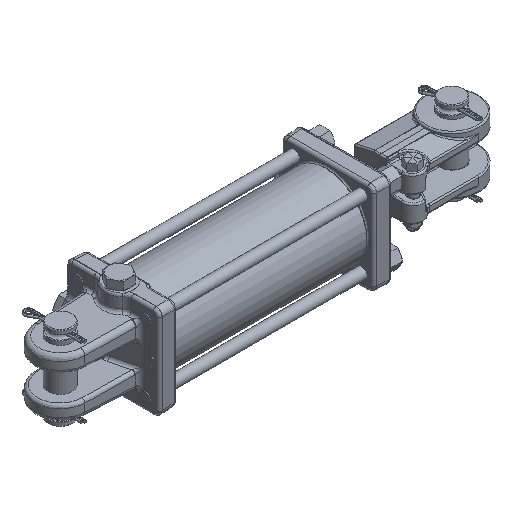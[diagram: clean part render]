
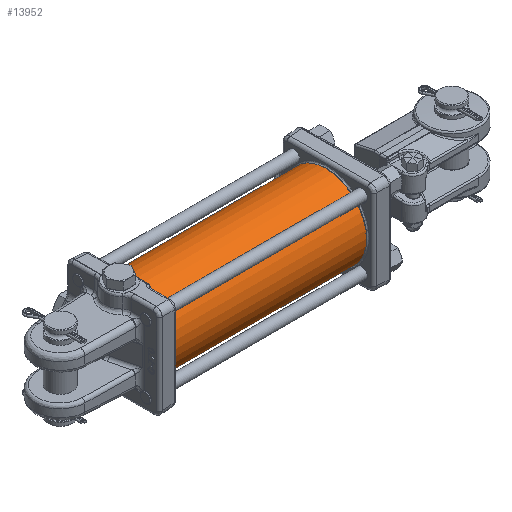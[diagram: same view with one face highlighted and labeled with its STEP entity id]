
A CAD part, isometric view. The second image highlights one B-rep face of the part: STEP entity #13952.
In plain terms, the highlighted cylindrical face has radius 42.862 mm (diameter 85.725 mm), a full revolution.
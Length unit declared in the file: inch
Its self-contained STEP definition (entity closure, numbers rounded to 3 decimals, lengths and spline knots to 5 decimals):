
#2922=CYLINDRICAL_SURFACE($,#14925,1.6875);
#3151=FACE_OUTER_BOUND($,#4328,.T.);
#4097=FACE_BOUND($,#4329,.T.);
#4328=EDGE_LOOP($,(#9443));
#4329=EDGE_LOOP($,(#9444));
#5452=CIRCLE($,#14916,1.6875);
#5456=CIRCLE($,#14924,1.6875);
#5963=VERTEX_POINT($,#19971);
#5967=VERTEX_POINT($,#19983);
#7316=EDGE_CURVE($,#5963,#5963,#5452,.T.);
#7320=EDGE_CURVE($,#5967,#5967,#5456,.T.);
#9443=ORIENTED_EDGE($,*,*,#7316,.F.);
#9444=ORIENTED_EDGE($,*,*,#7320,.T.);
#13952=ADVANCED_FACE($,(#3151,#4097),#2922,.T.);
#14916=AXIS2_PLACEMENT_3D($,#19972,#16352,#16353);
#14924=AXIS2_PLACEMENT_3D($,#19984,#16368,#16369);
#14925=AXIS2_PLACEMENT_3D($,#19985,#16370,#16371);
#16352=DIRECTION('center_axis',(1.,0.,0.));
#16353=DIRECTION('ref_axis',(0.,1.,0.));
#16368=DIRECTION('center_axis',(1.,0.,0.));
#16369=DIRECTION('ref_axis',(0.,1.,0.));
#16370=DIRECTION('center_axis',(1.,0.,0.));
#16371=DIRECTION('ref_axis',(0.,1.,0.));
#19971=CARTESIAN_POINT('',(0.,1.6875,0.));
#19972=CARTESIAN_POINT('Origin',(0.,0.,0.));
#19983=CARTESIAN_POINT('',(-8.063,1.6875,0.));
#19984=CARTESIAN_POINT('Origin',(-8.063,0.,0.));
#19985=CARTESIAN_POINT('Origin',(-4.0315,0.,0.));
